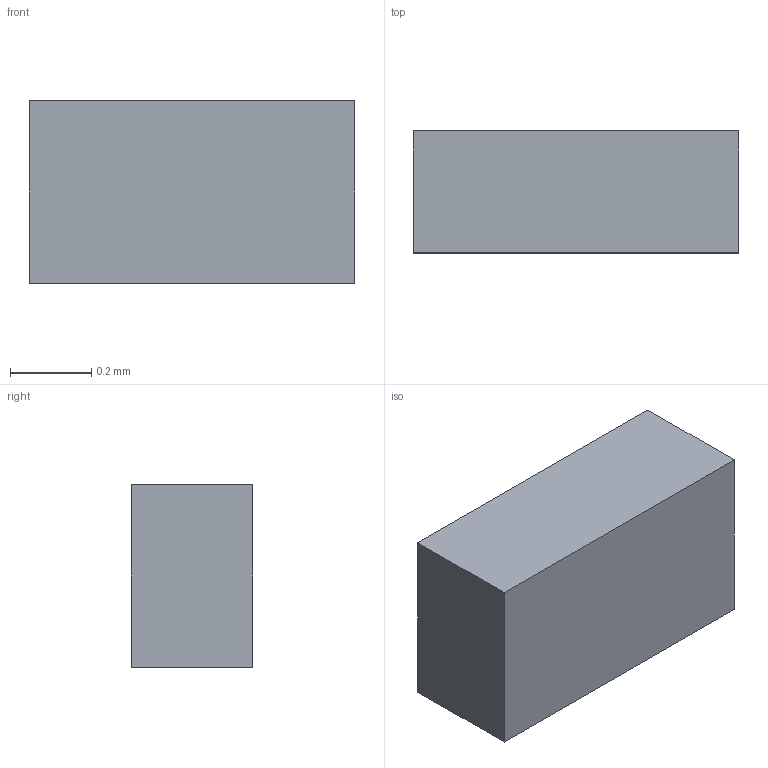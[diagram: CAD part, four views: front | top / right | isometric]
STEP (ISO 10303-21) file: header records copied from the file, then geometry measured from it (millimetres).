
FILE_DESCRIPTION(/* description */ ('STEP AP242 Edition 2','CAx-IF Rec.Pracs.---Representation and Presentation of Product Manufacturing Information (PMI)---4.0---2014-10-13','CAx-IF Rec.Pracs.---3D Tessellated Geometry---0.4---2014-09-14','2;1','CAx-IF Rec.Pracs.---User Defined Attributes---1.5---2016-08-15'),/* implementation_level */ '2;1');
FILE_NAME(/* name */ 'HIRO_Assembly - SMD Resistor, Configurable, Raspberry Pi Pico-R3_R7',/* time_stamp */ '2026-11-04T05:23:30Z',/* author */ (''),/* organization */ (''),/* preprocessor_version */ 'ST-DEVELOPER v20',/* originating_system */ 'ONSHAPE BY PTC INC, 1.223',/* authorisation */ ' ');
FILE_SCHEMA (('AP242_MANAGED_MODEL_BASED_3D_ENGINEERING_MIM_LF { 1 0 10303 442 3 1 4 }'));
Length unit declared in the file: metre
Products named in the file (1): SMD Resistor, Configurable, Raspberry Pi Pico-R3_R7
Bounding box: 0.8 x 0.3 x 0.45 mm (x, y, z)
Volume: 0.1 mm3; surface area: 1.5 mm2
Topology: 1 solids, 1 shells, 6 faces, 12 edges, 8 vertices
Faces by surface type: plane 6
Entity records: 178 total; most frequent: CARTESIAN_POINT 27, DIRECTION 26, ORIENTED_EDGE 24, EDGE_CURVE 12, LINE 12, VECTOR 12, VERTEX_POINT 8, AXIS2_PLACEMENT_3D 7
